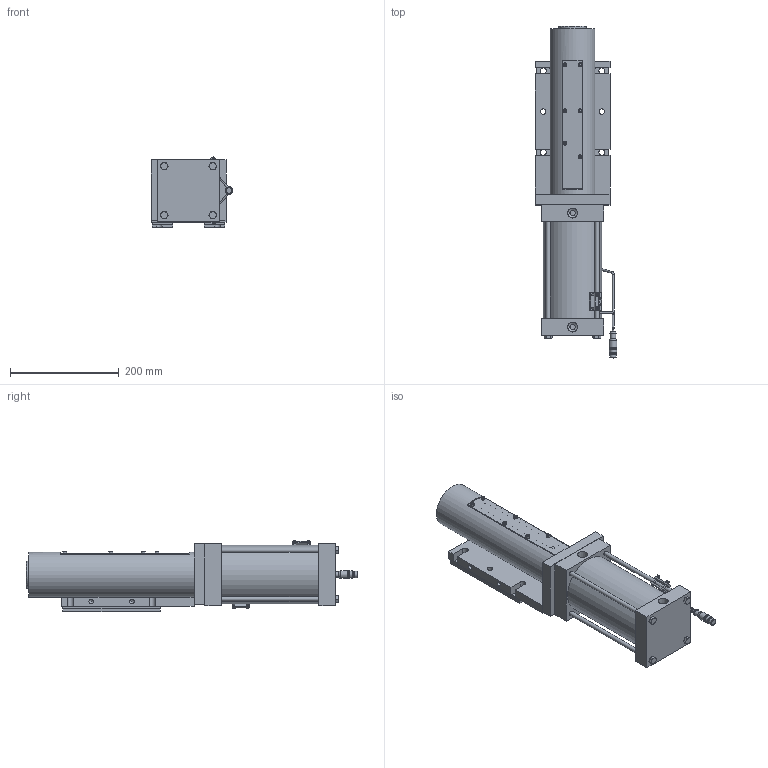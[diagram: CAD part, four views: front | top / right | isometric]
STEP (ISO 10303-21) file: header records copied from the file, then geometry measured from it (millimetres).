
FILE_DESCRIPTION(/* description */ (''),/* implementation_level */ '2;1');
FILE_NAME(/* name */ 'C:\TEMP\HP5 Bull Pins\HP5-P100L3000.stp',/* time_stamp */ '2016-01-20T07:20:49-05:00',/* author */ ('klabrecque'),/* organization */ (''),/* preprocessor_version */ 'ST-DEVELOPER v15.2',/* originating_system */ 'Autodesk Inventor 2014',/* authorisation */ '');
FILE_SCHEMA (('AUTOMOTIVE_DESIGN { 1 0 10303 214 3 1 1 }'));
Length unit declared in the file: millimetre
Products named in the file (19): HP5E01; S01674E03; S01674E04; S01674E02; 0.313-24X10.000 HEX; HP5E03; S01674_BIM-UNT-Cable-100 STK; S01674_BIM-UNT-Cable2; S01674_CONNECTOR; S01674_SWITCH; M3X0.5-18 SHCS; 3mm_FLAT_WASHER; S01674-100_SWITCH; HP5E12; M4X0.7-10 SHCS; HP5E14; HP5E10; 6950160; HP5-P100L3000
Bounding box: 150.7 x 611.57 x 130.86 mm (x, y, z)
Volume: 3739619.9 mm3; surface area: 784443.7 mm2
Topology: 38 solids, 38 shells, 950 faces, 2285 edges, 1480 vertices
Faces by surface type: plane 582, cylinder 237, cone 104, bspline 16, torus 11
Full cylindrical faces by diameter (mm): 1.9 x2, 2.459 x4, 2.6 x2, 3 x8, 3.175 x6, 3.2 x10, 3.242 x8, 3.5 x4, 4 x9, 4.134 x9, 4.917 x4, 5 x2, 5.5 x10, 6 x1, 6.35 x2, 6.647 x1, 6.782 x4, 7 x14, 7.938 x4, 8.376 x4, 8.5 x8, 9.6 x1, 10 x6, 10.2 x1, 10.49 x1, 11 x6, 11.43 x4, 11.989 x2, 12.497 x1, 13.005 x1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
Entity records: 18884 total; most frequent: CARTESIAN_POINT 3939, DIRECTION 3046, ORIENTED_EDGE 2604, EDGE_CURVE 1301, AXIS2_PLACEMENT_3D 1120, EDGE_LOOP 976, VERTEX_POINT 941, LINE 806
